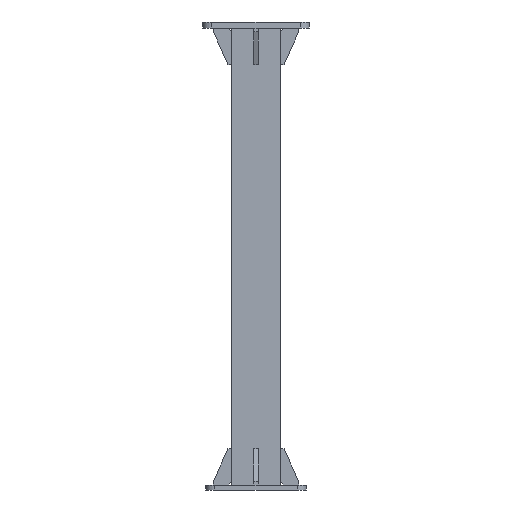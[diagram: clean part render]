
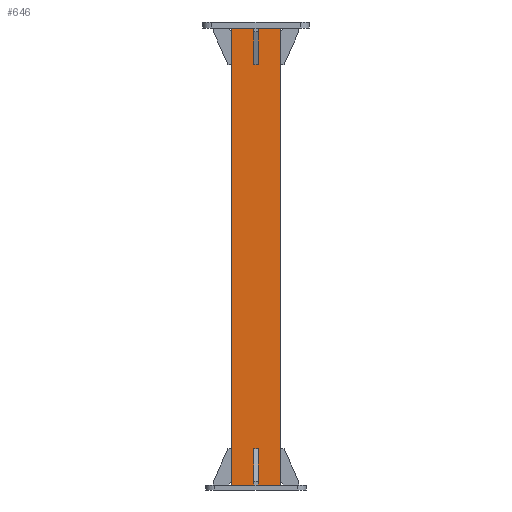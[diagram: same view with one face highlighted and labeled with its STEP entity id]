
A CAD part, left-side view. The second image highlights one B-rep face of the part: STEP entity #646.
In plain terms, the highlighted planar face has unit normal (-1, 0, 0).
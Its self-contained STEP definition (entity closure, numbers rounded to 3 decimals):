
#594=CARTESIAN_POINT('Vertex',(-20.,40.,8.)) ;
#597=CARTESIAN_POINT('Line Origine',(-20.,40.,383.)) ;
#601=CARTESIAN_POINT('Vertex',(-20.,40.,758.)) ;
#616=CARTESIAN_POINT('Axis2P3D Location',(-20.,-40.,8.)) ;
#621=CARTESIAN_POINT('Line Origine',(-20.,0.,8.)) ;
#625=CARTESIAN_POINT('Vertex',(-20.,-40.,8.)) ;
#628=CARTESIAN_POINT('Line Origine',(-20.,-40.,383.)) ;
#632=CARTESIAN_POINT('Vertex',(-20.,-40.,758.)) ;
#635=CARTESIAN_POINT('Line Origine',(-20.,0.,758.)) ;
#599=VECTOR('Line Direction',#598,1.) ;
#623=VECTOR('Line Direction',#622,1.) ;
#630=VECTOR('Line Direction',#629,1.) ;
#637=VECTOR('Line Direction',#636,1.) ;
#598=DIRECTION('Vector Direction',(0.,0.,1.)) ;
#617=DIRECTION('Axis2P3D Direction',(1.,0.,0.)) ;
#618=DIRECTION('Axis2P3D XDirection',(0.,1.,0.)) ;
#622=DIRECTION('Vector Direction',(0.,1.,0.)) ;
#629=DIRECTION('Vector Direction',(0.,0.,1.)) ;
#636=DIRECTION('Vector Direction',(0.,1.,0.)) ;
#619=AXIS2_PLACEMENT_3D('Plane Axis2P3D',#616,#617,#618) ;
#600=LINE('Line',#597,#599) ;
#624=LINE('Line',#621,#623) ;
#631=LINE('Line',#628,#630) ;
#638=LINE('Line',#635,#637) ;
#620=PLANE('',#619) ;
#603=EDGE_CURVE('',#595,#602,#600,.T.) ;
#627=EDGE_CURVE('',#595,#626,#624,.F.) ;
#634=EDGE_CURVE('',#626,#633,#631,.T.) ;
#639=EDGE_CURVE('',#602,#633,#638,.F.) ;
#641=ORIENTED_EDGE('',*,*,#603,.F.) ;
#642=ORIENTED_EDGE('',*,*,#627,.T.) ;
#643=ORIENTED_EDGE('',*,*,#634,.T.) ;
#644=ORIENTED_EDGE('',*,*,#639,.F.) ;
#640=EDGE_LOOP('',(#641,#642,#643,#644)) ;
#595=VERTEX_POINT('',#594) ;
#602=VERTEX_POINT('',#601) ;
#626=VERTEX_POINT('',#625) ;
#633=VERTEX_POINT('',#632) ;
#646=ADVANCED_FACE('\X2\51E04F554F53\X0\.2',(#645),#620,.F.) ;
#645=FACE_OUTER_BOUND('',#640,.T.) ;
